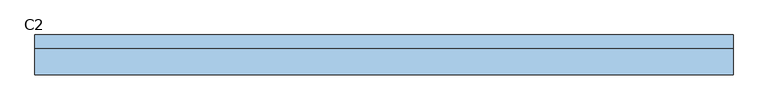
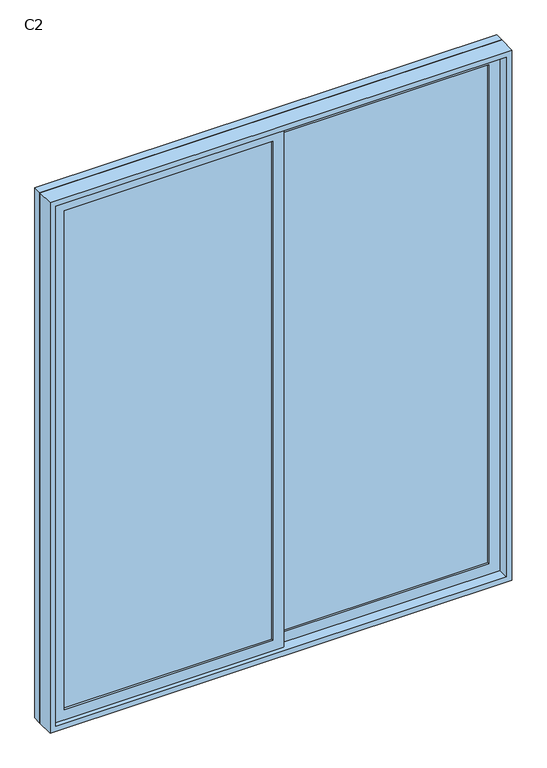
"""IFC4 building model written with IfcOpenShell, lengths in millimetres: window geometry, 推拉窗6 : C2."""

from ifc_helpers import new_model, si_unit, frame, origin, place, context, project, spatial, polyline, outline, extrude, source, transform, mapped, element, save


def c2_9de38a0a(model_context):
    return source(origin(), model_context, "Body", "SweptSolid", [
        extrude(outline(polyline([(-965.475, 36.8734375), (-965.475, 46.8734375), (-15.475, 46.8734375), (-15.475, 36.8734375), (-965.475, 36.8734375)])), frame((0.0, 0.0, 675.0), z_axis=(0.0, 0.0, 1.0), x_axis=(1.0, 0.0, 0.0)), (0.0, 0.0, 1.0), 2400.0),
        extrude(outline(polyline([(34.525, 66.8734375), (34.525, 76.8734375), (984.525, 76.8734375), (984.525, 66.8734375), (34.525, 66.8734375)])), frame((0.0, 0.0, 675.0), z_axis=(0.0, 0.0, 1.0), x_axis=(1.0, 0.0, 0.0)), (0.0, 0.0, 1.0), 2400.0),
        extrude(outline(polyline([(3150.0, -1040.475), (600.0, -1040.475), (600.0, 1059.525), (3150.0, 1059.525), (3150.0, -1040.475)]), holes=[polyline([(3095.0, 1009.525), (655.0, 1009.525), (655.0, -990.475), (3095.0, -990.475), (3095.0, 1009.525)])]), frame((0.0, 86.8734375, 0.0), z_axis=(0.0, 1.0, 0.0), x_axis=(0.0, 0.0, 1.0)), (0.0, 0.0, 1.0), 40.0),
        extrude(outline(polyline([(625.0, 34.525), (3125.0, 34.525), (3125.0, -1015.475), (625.0, -1015.475), (625.0, 34.525)]), holes=[polyline([(675.0, -15.475), (675.0, -965.475), (3075.0, -965.475), (3075.0, -15.475), (675.0, -15.475)])]), frame((0.0, 26.8734375, 0.0), z_axis=(0.0, 1.0, 0.0), x_axis=(0.0, 0.0, 1.0)), (0.0, 0.0, 1.0), 30.0),
        extrude(outline(polyline([(3125.0, -15.475), (625.0, -15.475), (625.0, 1034.525), (3125.0, 1034.525), (3125.0, -15.475)]), holes=[polyline([(3075.0, 34.525), (3075.0, 984.525), (675.0, 984.525), (675.0, 34.525), (3075.0, 34.525)])]), frame((0.0, 56.8734375, 0.0), z_axis=(0.0, 1.0, 0.0), x_axis=(0.0, 0.0, 1.0)), (0.0, 0.0, 1.0), 30.0),
        extrude(outline(polyline([(3150.0, -1040.475), (600.0, -1040.475), (600.0, 1059.525), (3150.0, 1059.525), (3150.0, -1040.475)]), holes=[polyline([(625.0, -1015.475), (3125.0, -1015.475), (3125.0, 1034.525), (625.0, 1034.525), (625.0, -1015.475)])]), frame((0.0, 6.8734375, 0.0), z_axis=(0.0, 1.0, 0.0), x_axis=(0.0, 0.0, 1.0)), (0.0, 0.0, 1.0), 80.0),
    ])


if __name__ == "__main__":
    model = new_model("IFC4")
    model_context = context("Model", 3, world=origin())
    ifc_project = project(units=[si_unit("LENGTHUNIT", "METRE", prefix="MILLI")], contexts=[model_context])
    site = spatial("IfcSite", under=ifc_project)
    building = spatial("IfcBuilding", under=site)
    placement = place(None, origin())
    c2_shape = c2_9de38a0a(model_context)
    element("IfcWindow", 1, ObjectType="推拉窗6 : C2", at=placement, inside=building, context=model_context, shape_type="MappedRepresentation", body=[
        mapped(c2_shape, transform((0.0, 0.0, 0.0), x_axis=(1.0, 0.0, 0.0), y_axis=(0.0, 1.0, 0.0), z_axis=(0.0, 0.0, 1.0))),
    ])
    save(model, "model.ifc")
